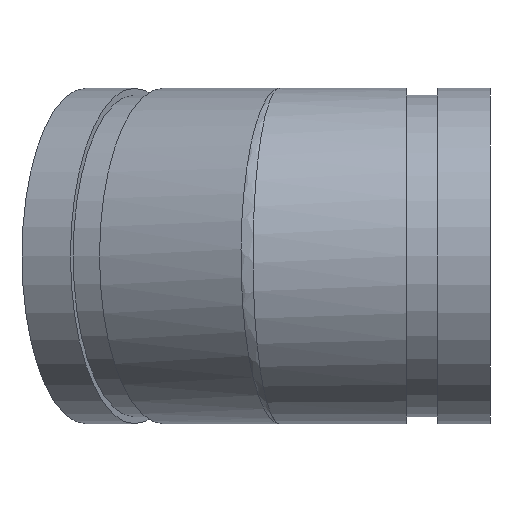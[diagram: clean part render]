
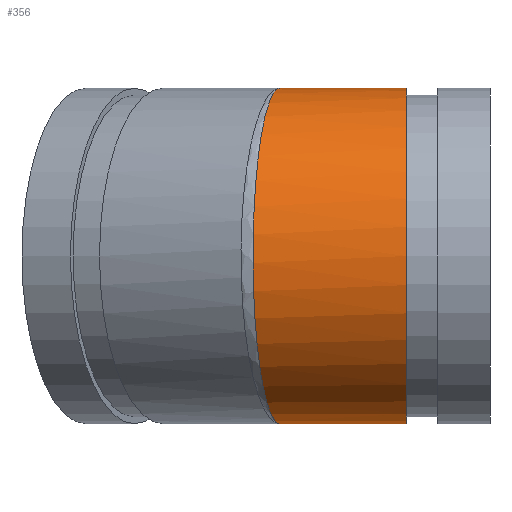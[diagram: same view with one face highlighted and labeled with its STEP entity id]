
A CAD part, left-side view. The second image highlights one B-rep face of the part: STEP entity #356.
In plain terms, the highlighted cylindrical face has radius 50.8 mm (diameter 101.6 mm), a full revolution.
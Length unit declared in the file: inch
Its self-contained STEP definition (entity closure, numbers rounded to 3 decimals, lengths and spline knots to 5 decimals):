
#66=LINE('',#706,#76);
#76=VECTOR('',#497,2.);
#88=CIRCLE('',#411,2.);
#108=CYLINDRICAL_SURFACE('',#410,2.);
#121=FACE_OUTER_BOUND('',#142,.T.);
#142=EDGE_LOOP('',(#271,#272,#273,#274,#275,#276));
#165=ELLIPSE('',#394,2.05504,2.);
#166=ELLIPSE('',#395,2.05504,2.);
#168=ELLIPSE('',#399,2.02595,2.);
#172=VERTEX_POINT('',#631);
#174=VERTEX_POINT('',#634);
#175=VERTEX_POINT('',#636);
#184=VERTEX_POINT('',#705);
#203=EDGE_CURVE('',#174,#175,#165,.T.);
#204=EDGE_CURVE('',#175,#172,#166,.T.);
#208=EDGE_CURVE('',#172,#174,#168,.T.);
#218=EDGE_CURVE('',#175,#184,#66,.T.);
#219=EDGE_CURVE('',#184,#184,#88,.T.);
#271=ORIENTED_EDGE('',*,*,#203,.F.);
#272=ORIENTED_EDGE('',*,*,#208,.F.);
#273=ORIENTED_EDGE('',*,*,#204,.F.);
#274=ORIENTED_EDGE('',*,*,#218,.T.);
#275=ORIENTED_EDGE('',*,*,#219,.F.);
#276=ORIENTED_EDGE('',*,*,#218,.F.);
#356=ADVANCED_FACE('',(#121),#108,.T.);
#394=AXIS2_PLACEMENT_3D('',#637,#460,#461);
#395=AXIS2_PLACEMENT_3D('',#638,#462,#463);
#399=AXIS2_PLACEMENT_3D('',#684,#471,#472);
#410=AXIS2_PLACEMENT_3D('',#704,#495,#496);
#411=AXIS2_PLACEMENT_3D('',#707,#498,#499);
#460=DIRECTION('center_axis',(0.23,0.973,0.));
#461=DIRECTION('ref_axis',(0.973,-0.23,0.));
#462=DIRECTION('center_axis',(0.23,0.973,0.));
#463=DIRECTION('ref_axis',(0.973,-0.23,0.));
#471=DIRECTION('center_axis',(0.16,0.987,0.));
#472=DIRECTION('ref_axis',(-0.987,0.16,0.));
#495=DIRECTION('center_axis',(0.,1.,0.));
#496=DIRECTION('ref_axis',(-1.,0.,0.));
#497=DIRECTION('',(0.,-1.,0.));
#498=DIRECTION('center_axis',(0.,-1.,0.));
#499=DIRECTION('ref_axis',(-1.,0.,0.));
#631=CARTESIAN_POINT('',(0.,2.5,-2.));
#634=CARTESIAN_POINT('',(0.,2.5,2.));
#636=CARTESIAN_POINT('',(2.,2.02758,0.));
#637=CARTESIAN_POINT('Origin',(0.,2.5,0.));
#638=CARTESIAN_POINT('Origin',(0.,2.5,0.));
#684=CARTESIAN_POINT('Origin',(0.,2.5,0.));
#704=CARTESIAN_POINT('Origin',(0.,1.,0.));
#705=CARTESIAN_POINT('',(2.,1.,0.));
#706=CARTESIAN_POINT('',(2.,1.,0.));
#707=CARTESIAN_POINT('Origin',(0.,1.,0.));
